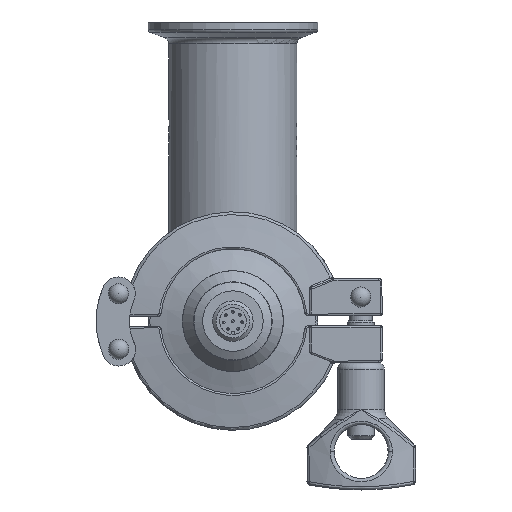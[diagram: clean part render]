
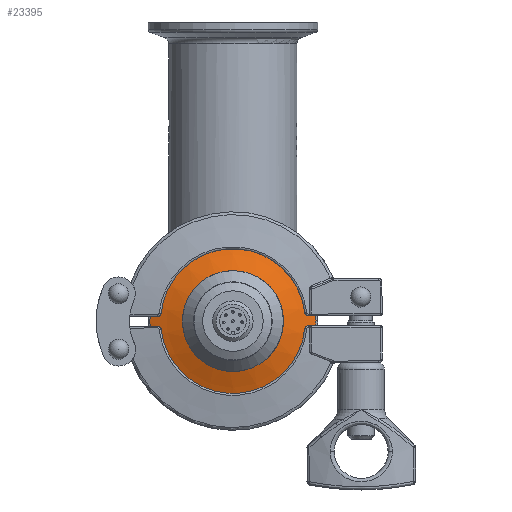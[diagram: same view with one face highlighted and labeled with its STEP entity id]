
A CAD part, front view. The second image highlights one B-rep face of the part: STEP entity #23395.
In plain terms, the highlighted conical face has half-angle 70 degrees and reference radius 24.724 mm.
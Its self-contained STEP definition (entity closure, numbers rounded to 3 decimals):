
#3859=CONICAL_SURFACE('',#24585,24.724,1.222);
#3929=ORIENTED_EDGE('',*,*,#9288,.F.);
#3930=ORIENTED_EDGE('',*,*,#9287,.F.);
#9287=EDGE_CURVE('',#11977,#11977,#13765,.T.);
#9288=EDGE_CURVE('',#11978,#11978,#13766,.F.);
#11977=VERTEX_POINT('',#30077);
#11978=VERTEX_POINT('',#30080);
#13765=CIRCLE('',#24584,24.724);
#13766=CIRCLE('',#24586,15.);
#14478=EDGE_LOOP('',(#3929));
#14479=EDGE_LOOP('',(#3930));
#15878=FACE_BOUND('',#14478,.T.);
#15879=FACE_BOUND('',#14479,.T.);
#23395=ADVANCED_FACE('',(#15878,#15879),#3859,.T.);
#24584=AXIS2_PLACEMENT_3D('',#30076,#26097,#26098);
#24585=AXIS2_PLACEMENT_3D('',#30078,#26099,#26100);
#24586=AXIS2_PLACEMENT_3D('',#30079,#26101,#26102);
#26097=DIRECTION('',(-1.,0.,0.));
#26098=DIRECTION('',(0.,0.589,-0.808));
#26099=DIRECTION('',(-1.,0.,0.));
#26100=DIRECTION('',(0.,0.589,-0.808));
#26101=DIRECTION('',(-1.,0.,0.));
#26102=DIRECTION('',(0.,-1.,0.));
#30076=CARTESIAN_POINT('',(106.298,0.,0.));
#30077=CARTESIAN_POINT('',(106.298,14.564,-19.979));
#30078=CARTESIAN_POINT('',(106.298,0.,0.));
#30079=CARTESIAN_POINT('',(109.837,0.,0.));
#30080=CARTESIAN_POINT('',(109.837,-15.,0.));
